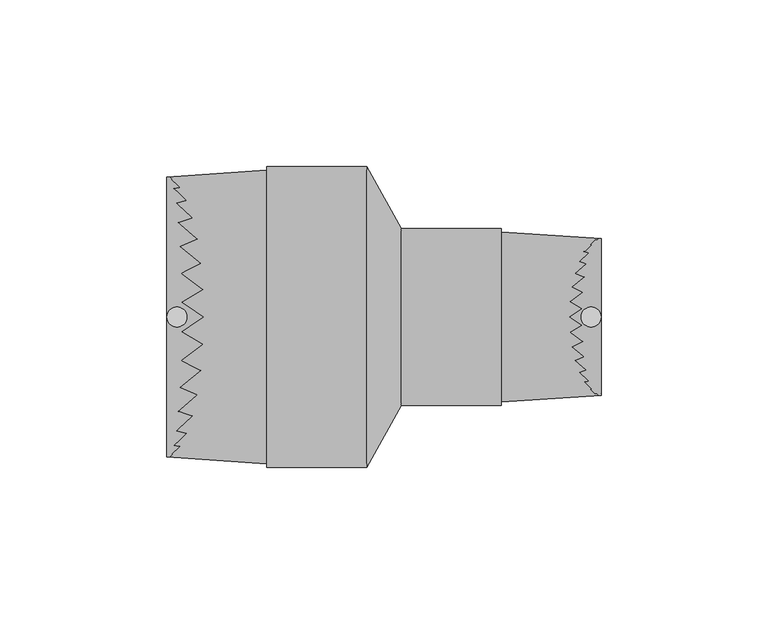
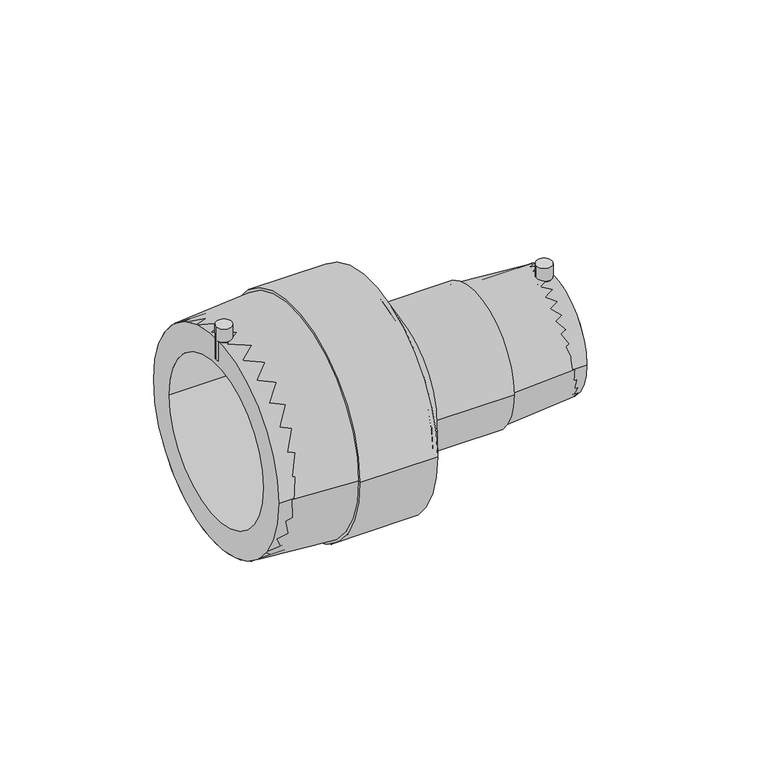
"""IFC4 building model written with IfcOpenShell, lengths in millimetres: pipe fitting geometry, EGB_VASEN_ PPR_Manguito reductor electrosoldable WXRD110 : Manguito reductor electrosoldable WXRD110."""

from ifc_helpers import new_model, si_unit, point, frame, frame_2d, origin, origin_2d, place, context, project, spatial, polyline, circle_curve, trimmed, segment, composite_curve, outline, extrude, source, transform, mapped, element, save
from ifc_brep_helpers import plane_surface, cylinder_surface, revolved_surface, advanced_brep


def pipe_fitting_d80d9361(model_context):
    return source(origin(), model_context, "Body", "SolidModel", [
        extrude(outline(composite_curve([segment(trimmed(circle_curve(frame_2d((62.0, 0.0)), 3.0), [point((59.0, 0.0))], [point((65.0, 0.0))], False, "CARTESIAN"), True, "CONTINUOUS"), segment(trimmed(circle_curve(frame_2d((62.0, 0.0)), 3.0), [point((65.0, 0.0))], [point((59.0, 0.0))], False, "CARTESIAN"), True, "CONTINUOUS")], self_intersect=False)), frame((0.0, 0.0, 18.0), z_axis=(0.0, 0.0, 1.0), x_axis=(1.0, 0.0, 0.0)), (0.0, 0.0, 1.0), 10.5),
        extrude(outline(composite_curve([segment(trimmed(circle_curve(frame_2d((-62.0, 0.0)), 3.0), [point((-65.0, 0.0))], [point((-59.0, 0.0))], False, "CARTESIAN"), True, "CONTINUOUS"), segment(trimmed(circle_curve(frame_2d((-62.0, 0.0)), 3.0), [point((-59.0, 0.0))], [point((-65.0, 0.0))], False, "CARTESIAN"), True, "CONTINUOUS")], self_intersect=False)), frame((0.0, 0.0, 33.5), z_axis=(0.0, 0.0, 1.0), x_axis=(1.0, 0.0, 0.0)), (0.0, 0.0, 1.0), 13.5),
        extrude(outline(composite_curve([segment(trimmed(circle_curve(origin_2d(), 23.5), [point((-23.5, 0.0))], [point((23.5, 0.0))], False, "CARTESIAN"), True, "CONTINUOUS"), segment(trimmed(circle_curve(origin_2d(), 23.5), [point((23.5, 0.0))], [point((-23.5, 0.0))], False, "CARTESIAN"), True, "CONTINUOUS")], self_intersect=False), holes=[composite_curve([segment(trimmed(circle_curve(origin_2d(), 16.0), [point((-16.0, 0.0))], [point((16.0, 0.0))], True, "CARTESIAN"), True, "CONTINUOUS"), segment(trimmed(circle_curve(origin_2d(), 16.0), [point((16.0, 0.0))], [point((-16.0, 0.0))], True, "CARTESIAN"), True, "CONTINUOUS")], self_intersect=False)]), frame((5.2, 0.0, 0.0), z_axis=(1.0, 0.0, 0.0), x_axis=(0.0, 1.0, 0.0)), (0.0, 0.0, 1.0), 59.8),
        extrude(outline(composite_curve([segment(trimmed(circle_curve(origin_2d(), 42.0), [point((-42.0, 0.0))], [point((42.0, 0.0))], False, "CARTESIAN"), True, "CONTINUOUS"), segment(trimmed(circle_curve(origin_2d(), 42.0), [point((42.0, 0.0))], [point((-42.0, 0.0))], False, "CARTESIAN"), True, "CONTINUOUS")], self_intersect=False), holes=[composite_curve([segment(trimmed(circle_curve(origin_2d(), 31.5), [point((-31.5, 0.0))], [point((31.5, 0.0))], True, "CARTESIAN"), True, "CONTINUOUS"), segment(trimmed(circle_curve(origin_2d(), 31.5), [point((31.5, 0.0))], [point((-31.5, 0.0))], True, "CARTESIAN"), True, "CONTINUOUS")], self_intersect=False)]), frame((-65.0, 0.0, 0.0), z_axis=(1.0, 0.0, 0.0), x_axis=(0.0, 1.0, 0.0)), (0.0, 0.0, 1.0), 59.8),
        advanced_brep(
        [(5.2, -23.5, 0.0), (5.2, 23.5, 0.0), (-5.2, -42.0, 0.0), (-5.2, 42.0, 0.0)],
        [
            (0, 1, circle_curve(frame((5.2, 0.0, 0.0), z_axis=(1.0, 0.0, 0.0), x_axis=(0.0, -1.0, 0.0)), 23.5)),
            (1, 0, circle_curve(frame((5.2, 0.0, 0.0), z_axis=(1.0, 0.0, 0.0), x_axis=(0.0, 1.0, 0.0)), 23.5)),
            (2, 3, circle_curve(frame((-5.2, 0.0, 0.0), z_axis=(-1.0, 0.0, 0.0), x_axis=(0.0, 1.0, 0.0)), 42.0)),
            (3, 2, circle_curve(frame((-5.2, 0.0, 0.0), z_axis=(-1.0, 0.0, 0.0), x_axis=(0.0, -1.0, 0.0)), 42.0)),
            (3, 1),
            (0, 2),
        ],
        [
            plane_surface(frame((5.2, 0.0, 0.0), z_axis=(1.0, 0.0, 0.0), x_axis=(0.0, 0.0, -1.0))),
            plane_surface(frame((-5.2, 0.0, 0.0), z_axis=(-1.0, 0.0, 0.0), x_axis=(0.0, 0.0, -1.0))),
            revolved_surface(polyline([(5.199999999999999, -23.499999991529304, 0.0), (-5.199999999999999, -42.0, 0.0)]), (18.4108108, 0.0, 0.0), (-1.0, 0.0, 0.0)),
            revolved_surface(polyline([(5.199999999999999, 23.499999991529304, 0.0), (-5.199999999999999, 42.0, 0.0)]), (18.4108108, 0.0, 0.0), (-1.0, 0.0, 0.0)),
        ],
        [
            (0, [[1, 2]]),
            (1, [[3, 4]]),
            (2, [[-4, 5, -1, 6]]),
            (3, [[-3, -6, -2, -5]]),
        ],
    ),
        advanced_brep(
        [(5.2, -23.5, 0.0), (5.2, 23.5, 0.0), (-5.2, 42.0, 0.0), (-5.2, -42.0, 0.0), (65.0, -23.5, 0.0), (65.0, 23.5, 0.0), (35.1, -25.5, 0.0), (35.1, 25.5, 0.0), (35.1, -26.5, 0.0), (35.1, 26.5, 0.0), (5.2, -26.5, 0.0), (5.2, 26.5, 0.0), (-5.2, -45.0, 0.0), (-5.2, 45.0, 0.0), (-35.1, -45.0, 0.0), (-35.1, 45.0, 0.0), (-35.1, -44.0, 0.0), (-35.1, 44.0, 0.0), (-65.0, -42.0, 0.0), (-65.0, 42.0, 0.0)],
        [
            (0, 1, circle_curve(frame((5.2, 0.0, 0.0), z_axis=(1.0, 0.0, 0.0), x_axis=(0.0, 1.0, 0.0)), 23.5)),
            (1, 2),
            (2, 3, circle_curve(frame((-5.2, 0.0, 0.0), z_axis=(-1.0, 0.0, 0.0), x_axis=(0.0, 1.0, 0.0)), 42.0)),
            (3, 0),
            (1, 0, circle_curve(frame((5.2, 0.0, 0.0), z_axis=(1.0, 0.0, 0.0), x_axis=(0.0, 1.0, 0.0)), 23.5)),
            (3, 2, circle_curve(frame((-5.2, 0.0, 0.0), z_axis=(-1.0, 0.0, 0.0), x_axis=(0.0, 1.0, 0.0)), 42.0)),
            (4, 5, circle_curve(frame((65.0, 0.0, 0.0), z_axis=(1.0, 0.0, 0.0), x_axis=(0.0, 1.0, 0.0)), 23.5)),
            (5, 1),
            (0, 4),
            (5, 4, circle_curve(frame((65.0, 0.0, 0.0), z_axis=(1.0, 0.0, 0.0), x_axis=(0.0, 1.0, 0.0)), 23.5)),
            (6, 7, circle_curve(frame((35.1, 0.0, 0.0), z_axis=(1.0, 0.0, 0.0), x_axis=(0.0, 1.0, 0.0)), 25.5)),
            (7, 5),
            (4, 6),
            (7, 6, circle_curve(frame((35.1, 0.0, 0.0), z_axis=(1.0, 0.0, 0.0), x_axis=(0.0, 1.0, 0.0)), 25.5)),
            (8, 9, circle_curve(frame((35.1, 0.0, 0.0), z_axis=(1.0, 0.0, 0.0), x_axis=(0.0, 1.0, 0.0)), 26.5)),
            (9, 7),
            (6, 8),
            (9, 8, circle_curve(frame((35.1, 0.0, 0.0), z_axis=(1.0, 0.0, 0.0), x_axis=(0.0, 1.0, 0.0)), 26.5)),
            (10, 11, circle_curve(frame((5.2, 0.0, 0.0), z_axis=(1.0, 0.0, 0.0), x_axis=(0.0, 1.0, 0.0)), 26.5)),
            (11, 9),
            (8, 10),
            (11, 10, circle_curve(frame((5.2, 0.0, 0.0), z_axis=(1.0, 0.0, 0.0), x_axis=(0.0, 1.0, 0.0)), 26.5)),
            (12, 13, circle_curve(frame((-5.2, 0.0, 0.0), z_axis=(1.0, 0.0, 0.0), x_axis=(0.0, 1.0, 0.0)), 45.0)),
            (13, 11),
            (10, 12),
            (13, 12, circle_curve(frame((-5.2, 0.0, 0.0), z_axis=(1.0, 0.0, 0.0), x_axis=(0.0, 1.0, 0.0)), 45.0)),
            (14, 15, circle_curve(frame((-35.1, 0.0, 0.0), z_axis=(1.0, 0.0, 0.0), x_axis=(0.0, 1.0, 0.0)), 45.0)),
            (15, 13),
            (12, 14),
            (15, 14, circle_curve(frame((-35.1, 0.0, 0.0), z_axis=(1.0, 0.0, 0.0), x_axis=(0.0, 1.0, 0.0)), 45.0)),
            (16, 17, circle_curve(frame((-35.1, 0.0, 0.0), z_axis=(1.0, 0.0, 0.0), x_axis=(0.0, 1.0, 0.0)), 44.0)),
            (17, 15),
            (14, 16),
            (17, 16, circle_curve(frame((-35.1, 0.0, 0.0), z_axis=(1.0, 0.0, 0.0), x_axis=(0.0, 1.0, 0.0)), 44.0)),
            (18, 19, circle_curve(frame((-65.0, 0.0, 0.0), z_axis=(1.0, 0.0, 0.0), x_axis=(0.0, 1.0, 0.0)), 42.0)),
            (19, 17),
            (16, 18),
            (19, 18, circle_curve(frame((-65.0, 0.0, 0.0), z_axis=(1.0, 0.0, 0.0), x_axis=(0.0, 1.0, 0.0)), 42.0)),
            (2, 19),
            (18, 3),
        ],
        [
            revolved_surface(polyline([(-5.2, 42.0, 0.0), (5.2, 23.5, 0.0)]), (-100.0, 0.0, 0.0), (-1.0, 0.0, 0.0)),
            revolved_surface(polyline([(5.200000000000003, 23.5, 0.0), (65.0, 23.5, 0.0)]), (-100.0, 0.0, 0.0), (-1.0, 0.0, 0.0)),
            revolved_surface(polyline([(65.0, 23.5, 0.0), (35.1, 25.5, 0.0)]), (-100.0, 0.0, 0.0), (-1.0, 0.0, 0.0)),
            plane_surface(frame((35.1, 0.0, 0.0), z_axis=(1.0, 0.0, 0.0), x_axis=(0.0, 1.0, 0.0))),
            cylinder_surface(frame((-100.0, 0.0, 0.0), z_axis=(-1.0, 0.0, 0.0), x_axis=(0.0, 1.0, 0.0)), 26.5),
            revolved_surface(polyline([(5.2, 26.5, 0.0), (-5.2, 45.0, 0.0)]), (-100.0, 0.0, 0.0), (-1.0, 0.0, 0.0)),
            cylinder_surface(frame((-100.0, 0.0, 0.0), z_axis=(-1.0, 0.0, 0.0), x_axis=(0.0, 1.0, 0.0)), 45.0),
            plane_surface(frame((-35.1, 0.0, 0.0), z_axis=(-1.0, 0.0, 0.0), x_axis=(0.0, 1.0, 0.0))),
            revolved_surface(polyline([(-35.1, 44.0, 0.0), (-65.0, 42.0, 0.0)]), (-100.0, 0.0, 0.0), (-1.0, 0.0, 0.0)),
            revolved_surface(polyline([(-65.0, 42.0, 0.0), (-5.200000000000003, 42.0, 0.0)]), (-100.0, 0.0, 0.0), (-1.0, 0.0, 0.0)),
        ],
        [
            (0, [[1, 2, 3, 4]]),
            (0, [[5, -4, 6, -2]]),
            (1, [[7, 8, -1, 9]]),
            (1, [[10, -9, -5, -8]]),
            (2, [[11, 12, -7, 13]]),
            (2, [[14, -13, -10, -12]]),
            (3, [[15, 16, -11, 17]]),
            (3, [[18, -17, -14, -16]]),
            (4, [[19, 20, -15, 21]]),
            (4, [[22, -21, -18, -20]]),
            (5, [[23, 24, -19, 25]]),
            (5, [[26, -25, -22, -24]]),
            (6, [[27, 28, -23, 29]]),
            (6, [[30, -29, -26, -28]]),
            (7, [[31, 32, -27, 33]]),
            (7, [[34, -33, -30, -32]]),
            (8, [[35, 36, -31, 37]]),
            (8, [[38, -37, -34, -36]]),
            (9, [[-3, 39, -35, 40]]),
            (9, [[-6, -40, -38, -39]]),
        ],
    ),
    ])


if __name__ == "__main__":
    model = new_model("IFC4")
    model_context = context("Model", 3, world=origin())
    ifc_project = project(units=[si_unit("LENGTHUNIT", "METRE", prefix="MILLI")], contexts=[model_context])
    site = spatial("IfcSite", under=ifc_project)
    building = spatial("IfcBuilding", under=site)
    placement = place(None, origin())
    pipe_fitting_shape = pipe_fitting_d80d9361(model_context)
    element("IfcPipeFitting", 1, ObjectType="EGB_VASEN_ PPR_Manguito reductor electrosoldable WXRD110 : Manguito reductor electrosoldable WXRD110", at=placement, inside=building, context=model_context, shape_type="MappedRepresentation", body=[
        mapped(pipe_fitting_shape, transform((0.0, 0.0, 0.0), x_axis=(1.0, 0.0, 0.0), y_axis=(0.0, 1.0, 0.0), z_axis=(0.0, 0.0, 1.0))),
    ])
    save(model, "model.ifc")
